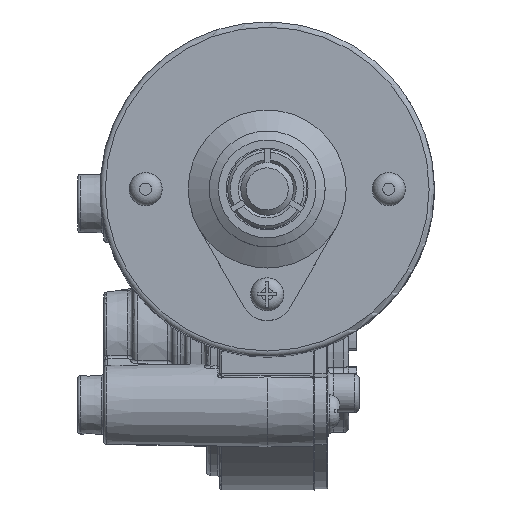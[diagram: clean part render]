
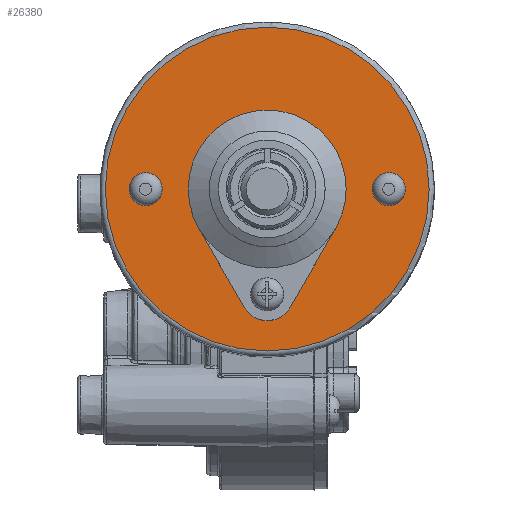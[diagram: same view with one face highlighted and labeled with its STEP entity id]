
A CAD part, top view. The second image highlights one B-rep face of the part: STEP entity #26380.
In plain terms, the highlighted planar face has unit normal (0, 0, 1).
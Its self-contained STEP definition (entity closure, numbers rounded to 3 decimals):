
#647 = CARTESIAN_POINT ( 'NONE',  ( 12.99, -7.5, 162. ) ) ;
#1280 = DIRECTION ( 'NONE',  ( 1., 0., 0. ) ) ;
#2882 = CARTESIAN_POINT ( 'NONE',  ( 4.33, -22.5, 162. ) ) ;
#3210 = EDGE_LOOP ( 'NONE', ( #38712 ) ) ;
#3361 = ORIENTED_EDGE ( 'NONE', *, *, #26251, .F. ) ;
#3391 = FACE_BOUND ( 'NONE', #16871, .T. ) ;
#3755 = VERTEX_POINT ( 'NONE', #2882 ) ;
#4240 = ORIENTED_EDGE ( 'NONE', *, *, #15831, .F. ) ;
#4260 = CARTESIAN_POINT ( 'NONE',  ( 12.99, -7.5, 162. ) ) ;
#4417 = VECTOR ( 'NONE', #13506, 1000. ) ;
#5282 = CIRCLE ( 'NONE', #8455, 30.75 ) ;
#5842 = LINE ( 'NONE', #4260, #4417 ) ;
#6163 = EDGE_CURVE ( 'NONE', #37146, #3755, #8231, .T. ) ;
#6273 = DIRECTION ( 'NONE',  ( 0., 0., 1. ) ) ;
#7441 = ORIENTED_EDGE ( 'NONE', *, *, #6163, .F. ) ;
#7680 = EDGE_CURVE ( 'NONE', #10121, #25651, #15823, .T. ) ;
#7865 = EDGE_CURVE ( 'NONE', #16531, #16531, #5282, .T. ) ;
#8231 = CIRCLE ( 'NONE', #14357, 5. ) ;
#8335 = DIRECTION ( 'NONE',  ( 1., 0., 0. ) ) ;
#8455 = AXIS2_PLACEMENT_3D ( 'NONE', #25410, #28765, #1280 ) ;
#9637 = FACE_BOUND ( 'NONE', #24783, .T. ) ;
#9782 = VERTEX_POINT ( 'NONE', #29258 ) ;
#9978 = CARTESIAN_POINT ( 'NONE',  ( -4.33, -22.5, 162. ) ) ;
#10121 = VERTEX_POINT ( 'NONE', #647 ) ;
#10596 = FACE_BOUND ( 'NONE', #3210, .T. ) ;
#11809 = AXIS2_PLACEMENT_3D ( 'NONE', #33926, #15582, #30308 ) ;
#12727 = CARTESIAN_POINT ( 'NONE',  ( 0., 0., 162. ) ) ;
#13317 = PLANE ( 'NONE',  #24031 ) ;
#13506 = DIRECTION ( 'NONE',  ( 0.5, 0.866, 0. ) ) ;
#13574 = DIRECTION ( 'NONE',  ( 0., 0., 1. ) ) ;
#14357 = AXIS2_PLACEMENT_3D ( 'NONE', #20371, #38533, #8335 ) ;
#15359 = ORIENTED_EDGE ( 'NONE', *, *, #7865, .T. ) ;
#15582 = DIRECTION ( 'NONE',  ( 0., 0., -1. ) ) ;
#15823 = CIRCLE ( 'NONE', #18709, 15. ) ;
#15831 = EDGE_CURVE ( 'NONE', #3755, #10121, #5842, .T. ) ;
#16531 = VERTEX_POINT ( 'NONE', #22020 ) ;
#16871 = EDGE_LOOP ( 'NONE', ( #7441, #3361, #18482, #4240 ) ) ;
#18482 = ORIENTED_EDGE ( 'NONE', *, *, #7680, .F. ) ;
#18709 = AXIS2_PLACEMENT_3D ( 'NONE', #12727, #6273, #27735 ) ;
#19975 = CARTESIAN_POINT ( 'NONE',  ( -26.232, 0., 162. ) ) ;
#20139 = CIRCLE ( 'NONE', #34025, 3.15 ) ;
#20371 = CARTESIAN_POINT ( 'NONE',  ( 0., -20., 162. ) ) ;
#22020 = CARTESIAN_POINT ( 'NONE',  ( 30.75, 0., 162. ) ) ;
#22497 = CARTESIAN_POINT ( 'NONE',  ( -12.99, -7.5, 162. ) ) ;
#24031 = AXIS2_PLACEMENT_3D ( 'NONE', #35292, #13574, #34880 ) ;
#24783 = EDGE_LOOP ( 'NONE', ( #29310 ) ) ;
#25410 = CARTESIAN_POINT ( 'NONE',  ( 0., 0., 162. ) ) ;
#25651 = VERTEX_POINT ( 'NONE', #22497 ) ;
#25696 = EDGE_LOOP ( 'NONE', ( #15359 ) ) ;
#26251 = EDGE_CURVE ( 'NONE', #25651, #37146, #26906, .T. ) ;
#26380 = ADVANCED_FACE ( 'NONE', ( #10596, #33628, #3391, #9637 ), #13317, .T. ) ;
#26906 = LINE ( 'NONE', #9978, #27397 ) ;
#27397 = VECTOR ( 'NONE', #34221, 1000. ) ;
#27735 = DIRECTION ( 'NONE',  ( 1., 0., 0. ) ) ;
#28765 = DIRECTION ( 'NONE',  ( 0., 0., 1. ) ) ;
#29258 = CARTESIAN_POINT ( 'NONE',  ( 26.232, 0., 162. ) ) ;
#29310 = ORIENTED_EDGE ( 'NONE', *, *, #37264, .T. ) ;
#29530 = CARTESIAN_POINT ( 'NONE',  ( -23.082, 0., 162. ) ) ;
#30308 = DIRECTION ( 'NONE',  ( 1., 0., 0. ) ) ;
#31342 = VERTEX_POINT ( 'NONE', #19975 ) ;
#32615 = DIRECTION ( 'NONE',  ( -1., 0., 0. ) ) ;
#32753 = CARTESIAN_POINT ( 'NONE',  ( -4.33, -22.5, 162. ) ) ;
#32920 = CIRCLE ( 'NONE', #11809, 3.15 ) ;
#33498 = EDGE_CURVE ( 'NONE', #31342, #31342, #20139, .T. ) ;
#33628 = FACE_OUTER_BOUND ( 'NONE', #25696, .T. ) ;
#33926 = CARTESIAN_POINT ( 'NONE',  ( 23.082, 0., 162. ) ) ;
#34025 = AXIS2_PLACEMENT_3D ( 'NONE', #29530, #35988, #32615 ) ;
#34221 = DIRECTION ( 'NONE',  ( 0.5, -0.866, 0. ) ) ;
#34880 = DIRECTION ( 'NONE',  ( 1., 0., 0. ) ) ;
#35292 = CARTESIAN_POINT ( 'NONE',  ( 0., 0., 162. ) ) ;
#35988 = DIRECTION ( 'NONE',  ( 0., 0., -1. ) ) ;
#37146 = VERTEX_POINT ( 'NONE', #32753 ) ;
#37264 = EDGE_CURVE ( 'NONE', #9782, #9782, #32920, .T. ) ;
#38533 = DIRECTION ( 'NONE',  ( 0., 0., 1. ) ) ;
#38712 = ORIENTED_EDGE ( 'NONE', *, *, #33498, .T. ) ;
